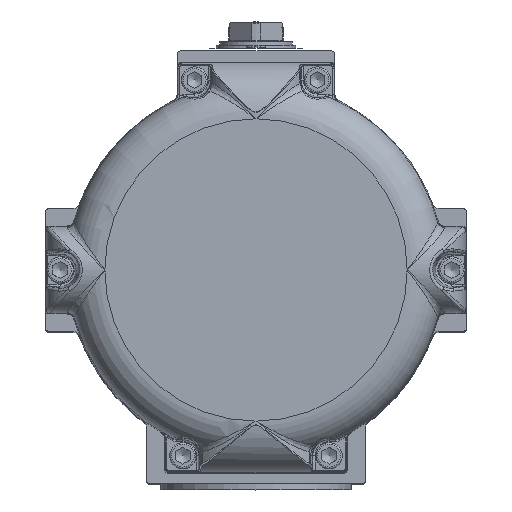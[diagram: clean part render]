
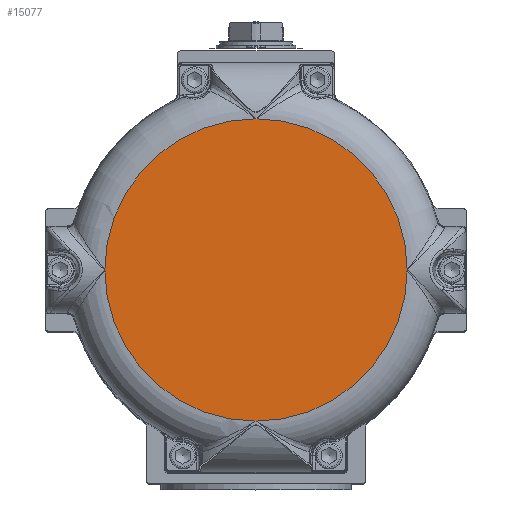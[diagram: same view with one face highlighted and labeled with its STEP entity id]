
A CAD part, top view. The second image highlights one B-rep face of the part: STEP entity #15077.
In plain terms, the highlighted planar face has unit normal (0, 0, 1).
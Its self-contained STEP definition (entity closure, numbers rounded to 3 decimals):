
#14880=CARTESIAN_POINT('',(0.,103.409,226.5));
#14881=VERTEX_POINT('',#14880);
#14904=CARTESIAN_POINT('',(103.409,0.,226.5));
#14905=VERTEX_POINT('',#14904);
#14906=CARTESIAN_POINT('',(0.,0.,226.5));
#14907=DIRECTION('',(0.0,0.0,1.0));
#14908=DIRECTION('',(-1.0,0.0,0.0));
#14909=AXIS2_PLACEMENT_3D('',#14906,#14907,#14908);
#14910=CIRCLE('',#14909,103.409);
#14911=EDGE_CURVE('',#14905,#14881,#14910,.T.);
#15044=CARTESIAN_POINT('',(-51.704,0.,226.5));
#15045=DIRECTION('',(0.0,0.0,1.0));
#15046=DIRECTION('',(0.0,-1.0,0.0));
#15047=AXIS2_PLACEMENT_3D('',#15044,#15045,#15046);
#15048=PLANE('',#15047);
#15049=ORIENTED_EDGE('',*,*,#14911,.T.);
#15050=CARTESIAN_POINT('',(-103.409,0.,226.5));
#15051=VERTEX_POINT('',#15050);
#15052=CARTESIAN_POINT('',(0.,0.,226.5));
#15053=DIRECTION('',(0.0,0.0,1.0));
#15054=DIRECTION('',(-1.0,0.0,0.0));
#15055=AXIS2_PLACEMENT_3D('',#15052,#15053,#15054);
#15056=CIRCLE('',#15055,103.409);
#15057=EDGE_CURVE('',#14881,#15051,#15056,.T.);
#15058=ORIENTED_EDGE('',*,*,#15057,.T.);
#15059=CARTESIAN_POINT('',(0.,-103.409,226.5));
#15060=VERTEX_POINT('',#15059);
#15061=CARTESIAN_POINT('',(0.,0.,226.5));
#15062=DIRECTION('',(0.0,0.0,1.0));
#15063=DIRECTION('',(-1.0,0.0,0.0));
#15064=AXIS2_PLACEMENT_3D('',#15061,#15062,#15063);
#15065=CIRCLE('',#15064,103.409);
#15066=EDGE_CURVE('',#15051,#15060,#15065,.T.);
#15067=ORIENTED_EDGE('',*,*,#15066,.T.);
#15068=CARTESIAN_POINT('',(0.,0.,226.5));
#15069=DIRECTION('',(0.0,0.0,1.0));
#15070=DIRECTION('',(-1.0,0.0,0.0));
#15071=AXIS2_PLACEMENT_3D('',#15068,#15069,#15070);
#15072=CIRCLE('',#15071,103.409);
#15073=EDGE_CURVE('',#15060,#14905,#15072,.T.);
#15074=ORIENTED_EDGE('',*,*,#15073,.T.);
#15075=EDGE_LOOP('',(#15049,#15058,#15067,#15074));
#15076=FACE_OUTER_BOUND('',#15075,.T.);
#15077=ADVANCED_FACE('',(#15076),#15048,.T.);
